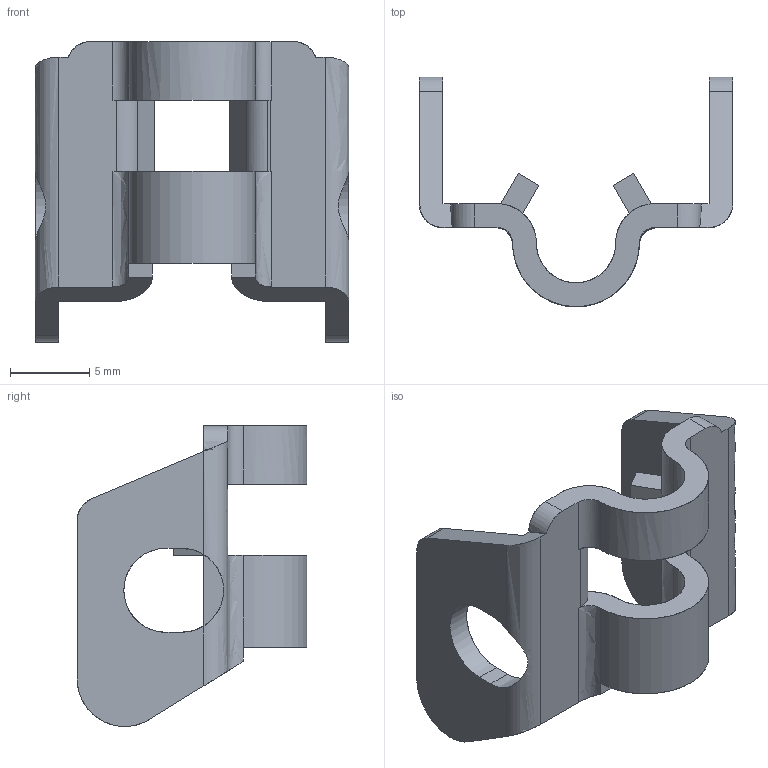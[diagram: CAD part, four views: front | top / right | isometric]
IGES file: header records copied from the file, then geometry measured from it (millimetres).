
Start section: SolidWorks IGES FILE using analytic representation for surfaces
Global section: file name: C:\Documents and Settings\lecoutey\Bureau\GR 2003\2003.070.00.IGS; native system: SolidWorks 2004 by SolidWorks Corporation; preprocessor: Version 5.3; author: lecoutey; date: 050405.093831; units: millimetre
Bounding box: 19.8 x 14.5 x 19 mm (x, y, z)
Surface area: 1326.5 mm2 (no closed solid volume)
Topology: 0 solids, 0 shells, 68 faces, 900 edges, 900 vertices
Faces by surface type: bspline 43, revolution 25
